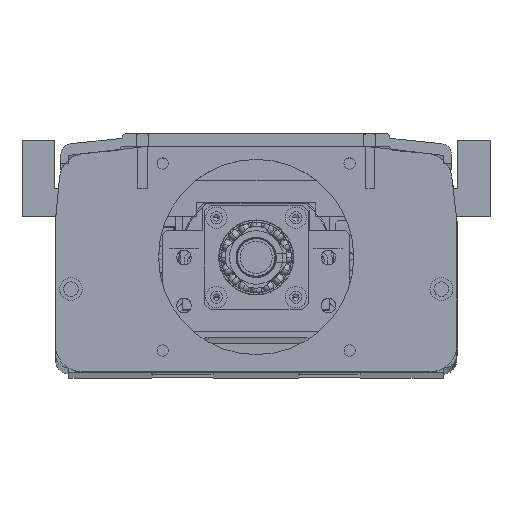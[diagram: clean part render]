
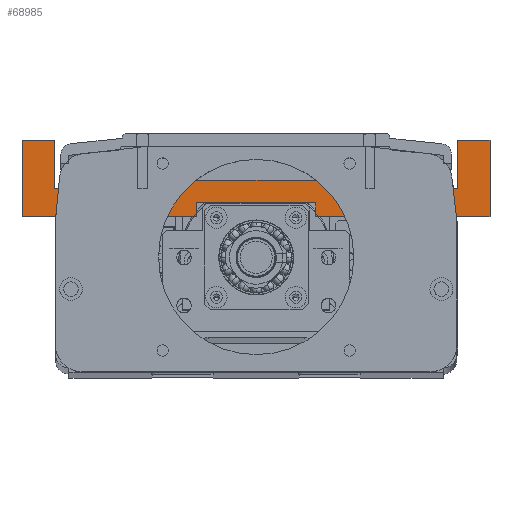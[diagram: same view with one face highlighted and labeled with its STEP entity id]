
A CAD part, top view. The second image highlights one B-rep face of the part: STEP entity #68985.
In plain terms, the highlighted planar face has unit normal (0, 0, 1).
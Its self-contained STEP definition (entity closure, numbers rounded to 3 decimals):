
#1216 = VERTEX_POINT ( 'NONE', #41091 ) ;
#2642 = LINE ( 'NONE', #27536, #94603 ) ;
#3817 = CARTESIAN_POINT ( 'NONE',  ( -57.291, -63.676, 150. ) ) ;
#5464 = EDGE_CURVE ( 'NONE', #109808, #25490, #94193, .T. ) ;
#7262 = LINE ( 'NONE', #73052, #54591 ) ;
#7263 = LINE ( 'NONE', #74970, #72686 ) ;
#7541 = CARTESIAN_POINT ( 'NONE',  ( 7.959, -58.676, 150. ) ) ;
#8365 = DIRECTION ( 'NONE',  ( 1., 0., 0. ) ) ;
#8527 = DIRECTION ( 'NONE',  ( 0., 1., 0. ) ) ;
#8745 = ORIENTED_EDGE ( 'NONE', *, *, #96802, .T. ) ;
#8772 = ORIENTED_EDGE ( 'NONE', *, *, #48153, .T. ) ;
#9501 = LINE ( 'NONE', #3817, #30376 ) ;
#9670 = LINE ( 'NONE', #82681, #54190 ) ;
#10875 = VERTEX_POINT ( 'NONE', #36841 ) ;
#11561 = ORIENTED_EDGE ( 'NONE', *, *, #73954, .T. ) ;
#11903 = CARTESIAN_POINT ( 'NONE',  ( 105.709, -35.176, 150. ) ) ;
#12623 = VECTOR ( 'NONE', #78487, 1000. ) ;
#13149 = EDGE_CURVE ( 'NONE', #10875, #80147, #7262, .T. ) ;
#13307 = EDGE_CURVE ( 'NONE', #112967, #39846, #96427, .T. ) ;
#14479 = CARTESIAN_POINT ( 'NONE',  ( -57.291, -63.676, 150. ) ) ;
#15247 = EDGE_CURVE ( 'NONE', #25490, #30246, #40532, .T. ) ;
#15415 = LINE ( 'NONE', #42660, #12623 ) ;
#15971 = VERTEX_POINT ( 'NONE', #65046 ) ;
#16486 = VECTOR ( 'NONE', #23133, 1000. ) ;
#16895 = VECTOR ( 'NONE', #69777, 1000. ) ;
#19296 = LINE ( 'NONE', #41366, #16486 ) ;
#19774 = DIRECTION ( 'NONE',  ( 0., 1., 0. ) ) ;
#22706 = ORIENTED_EDGE ( 'NONE', *, *, #13149, .T. ) ;
#23133 = DIRECTION ( 'NONE',  ( -1., 0., 0. ) ) ;
#25490 = VERTEX_POINT ( 'NONE', #66525 ) ;
#27536 = CARTESIAN_POINT ( 'NONE',  ( -57.291, -53.176, 150. ) ) ;
#29381 = DIRECTION ( 'NONE',  ( -1., 0., 0. ) ) ;
#30246 = VERTEX_POINT ( 'NONE', #47165 ) ;
#30376 = VECTOR ( 'NONE', #57101, 1000. ) ;
#30775 = DIRECTION ( 'NONE',  ( -1., 0., 0. ) ) ;
#31109 = ORIENTED_EDGE ( 'NONE', *, *, #35619, .T. ) ;
#32369 = CARTESIAN_POINT ( 'NONE',  ( -45.291, -35.176, 150. ) ) ;
#32890 = CARTESIAN_POINT ( 'NONE',  ( -57.291, -35.176, 150. ) ) ;
#35082 = EDGE_LOOP ( 'NONE', ( #63030, #56043, #113958, #112848, #22706, #8745, #64890, #109190, #108150, #113353, #41576, #31109, #62125, #103446, #11561, #8772 ) ) ;
#35619 = EDGE_CURVE ( 'NONE', #76441, #15971, #2642, .T. ) ;
#36841 = CARTESIAN_POINT ( 'NONE',  ( 117.709, -63.676, 150. ) ) ;
#37387 = LINE ( 'NONE', #68137, #81942 ) ;
#38407 = DIRECTION ( 'NONE',  ( 0., -1., 0. ) ) ;
#38923 = EDGE_CURVE ( 'NONE', #69159, #112207, #67518, .T. ) ;
#39846 = VERTEX_POINT ( 'NONE', #58783 ) ;
#40532 = LINE ( 'NONE', #7541, #16895 ) ;
#40918 = DIRECTION ( 'NONE',  ( 0., -1., 0. ) ) ;
#40978 = VECTOR ( 'NONE', #107242, 1000. ) ;
#41091 = CARTESIAN_POINT ( 'NONE',  ( -57.291, -63.676, 150. ) ) ;
#41366 = CARTESIAN_POINT ( 'NONE',  ( 105.709, -35.176, 150. ) ) ;
#41576 = ORIENTED_EDGE ( 'NONE', *, *, #47362, .T. ) ;
#42412 = CARTESIAN_POINT ( 'NONE',  ( 97.209, -50.176, 150. ) ) ;
#42660 = CARTESIAN_POINT ( 'NONE',  ( 97.209, -63.676, 150. ) ) ;
#42896 = LINE ( 'NONE', #94668, #111232 ) ;
#43564 = CARTESIAN_POINT ( 'NONE',  ( 97.209, -53.176, 150. ) ) ;
#46763 = VECTOR ( 'NONE', #8527, 1000. ) ;
#47165 = CARTESIAN_POINT ( 'NONE',  ( 7.959, -58.676, 150. ) ) ;
#47362 = EDGE_CURVE ( 'NONE', #112207, #76441, #7263, .T. ) ;
#48153 = EDGE_CURVE ( 'NONE', #1216, #106067, #100564, .T. ) ;
#50221 = PLANE ( 'NONE',  #73034 ) ;
#50356 = VECTOR ( 'NONE', #8365, 1000. ) ;
#53830 = CARTESIAN_POINT ( 'NONE',  ( -57.291, -35.176, 150. ) ) ;
#54190 = VECTOR ( 'NONE', #29381, 1000. ) ;
#54591 = VECTOR ( 'NONE', #19774, 1000. ) ;
#55187 = EDGE_CURVE ( 'NONE', #30246, #106067, #42896, .T. ) ;
#56043 = ORIENTED_EDGE ( 'NONE', *, *, #15247, .F. ) ;
#57101 = DIRECTION ( 'NONE',  ( 1., 0., 0. ) ) ;
#57373 = CARTESIAN_POINT ( 'NONE',  ( -36.791, -53.176, 150. ) ) ;
#58783 = CARTESIAN_POINT ( 'NONE',  ( 105.709, -53.176, 150. ) ) ;
#59148 = DIRECTION ( 'NONE',  ( 1., 0., 0. ) ) ;
#61651 = CARTESIAN_POINT ( 'NONE',  ( -57.291, -63.676, 150. ) ) ;
#61966 = CARTESIAN_POINT ( 'NONE',  ( 52.459, -63.676, 150. ) ) ;
#62125 = ORIENTED_EDGE ( 'NONE', *, *, #103711, .T. ) ;
#63030 = ORIENTED_EDGE ( 'NONE', *, *, #55187, .F. ) ;
#64890 = ORIENTED_EDGE ( 'NONE', *, *, #13307, .T. ) ;
#65046 = CARTESIAN_POINT ( 'NONE',  ( -45.291, -53.176, 150. ) ) ;
#65101 = EDGE_CURVE ( 'NONE', #78160, #69159, #15415, .T. ) ;
#65988 = CARTESIAN_POINT ( 'NONE',  ( -45.291, -35.176, 150. ) ) ;
#66525 = CARTESIAN_POINT ( 'NONE',  ( 52.459, -58.676, 150. ) ) ;
#67518 = LINE ( 'NONE', #84102, #112203 ) ;
#68137 = CARTESIAN_POINT ( 'NONE',  ( -57.291, -35.176, 150. ) ) ;
#68985 = ADVANCED_FACE ( 'NONE', ( #69412 ), #50221, .T. ) ;
#69159 = VERTEX_POINT ( 'NONE', #42412 ) ;
#69412 = FACE_OUTER_BOUND ( 'NONE', #35082, .T. ) ;
#69777 = DIRECTION ( 'NONE',  ( -1., 0., 0. ) ) ;
#70183 = EDGE_CURVE ( 'NONE', #109808, #10875, #9501, .T. ) ;
#70749 = CARTESIAN_POINT ( 'NONE',  ( 52.459, -58.676, 150. ) ) ;
#71849 = VECTOR ( 'NONE', #85729, 1000. ) ;
#72299 = VERTEX_POINT ( 'NONE', #32890 ) ;
#72686 = VECTOR ( 'NONE', #83949, 1000. ) ;
#73034 = AXIS2_PLACEMENT_3D ( 'NONE', #14479, #112605, #59148 ) ;
#73052 = CARTESIAN_POINT ( 'NONE',  ( 117.709, -35.176, 150. ) ) ;
#73954 = EDGE_CURVE ( 'NONE', #72299, #1216, #37387, .T. ) ;
#74970 = CARTESIAN_POINT ( 'NONE',  ( -36.791, -63.676, 150. ) ) ;
#75367 = CARTESIAN_POINT ( 'NONE',  ( 7.959, -63.676, 150. ) ) ;
#75508 = VECTOR ( 'NONE', #38407, 1000. ) ;
#76441 = VERTEX_POINT ( 'NONE', #57373 ) ;
#76558 = CARTESIAN_POINT ( 'NONE',  ( -36.791, -50.176, 150. ) ) ;
#78160 = VERTEX_POINT ( 'NONE', #43564 ) ;
#78487 = DIRECTION ( 'NONE',  ( 0., 1., 0. ) ) ;
#80147 = VERTEX_POINT ( 'NONE', #91667 ) ;
#81942 = VECTOR ( 'NONE', #40918, 1000. ) ;
#82681 = CARTESIAN_POINT ( 'NONE',  ( -57.291, -53.176, 150. ) ) ;
#83949 = DIRECTION ( 'NONE',  ( 0., -1., 0. ) ) ;
#84102 = CARTESIAN_POINT ( 'NONE',  ( -45.291, -50.176, 150. ) ) ;
#85729 = DIRECTION ( 'NONE',  ( 0., 1., 0. ) ) ;
#85998 = VERTEX_POINT ( 'NONE', #65988 ) ;
#90017 = LINE ( 'NONE', #32369, #71849 ) ;
#91667 = CARTESIAN_POINT ( 'NONE',  ( 117.709, -35.176, 150. ) ) ;
#94193 = LINE ( 'NONE', #70749, #46763 ) ;
#94603 = VECTOR ( 'NONE', #107782, 1000. ) ;
#94668 = CARTESIAN_POINT ( 'NONE',  ( 7.959, -58.676, 150. ) ) ;
#94851 = EDGE_CURVE ( 'NONE', #39846, #78160, #9670, .T. ) ;
#95044 = DIRECTION ( 'NONE',  ( 0., -1., 0. ) ) ;
#96427 = LINE ( 'NONE', #109729, #75508 ) ;
#96802 = EDGE_CURVE ( 'NONE', #80147, #112967, #19296, .T. ) ;
#100564 = LINE ( 'NONE', #61651, #50356 ) ;
#103446 = ORIENTED_EDGE ( 'NONE', *, *, #114799, .T. ) ;
#103711 = EDGE_CURVE ( 'NONE', #15971, #85998, #90017, .T. ) ;
#106067 = VERTEX_POINT ( 'NONE', #75367 ) ;
#107242 = DIRECTION ( 'NONE',  ( -1., 0., 0. ) ) ;
#107782 = DIRECTION ( 'NONE',  ( -1., 0., 0. ) ) ;
#108150 = ORIENTED_EDGE ( 'NONE', *, *, #65101, .T. ) ;
#109190 = ORIENTED_EDGE ( 'NONE', *, *, #94851, .T. ) ;
#109313 = LINE ( 'NONE', #53830, #40978 ) ;
#109729 = CARTESIAN_POINT ( 'NONE',  ( 105.709, -35.176, 150. ) ) ;
#109808 = VERTEX_POINT ( 'NONE', #61966 ) ;
#111232 = VECTOR ( 'NONE', #95044, 1000. ) ;
#112203 = VECTOR ( 'NONE', #30775, 1000. ) ;
#112207 = VERTEX_POINT ( 'NONE', #76558 ) ;
#112605 = DIRECTION ( 'NONE',  ( 0., 0., 1. ) ) ;
#112848 = ORIENTED_EDGE ( 'NONE', *, *, #70183, .T. ) ;
#112967 = VERTEX_POINT ( 'NONE', #11903 ) ;
#113353 = ORIENTED_EDGE ( 'NONE', *, *, #38923, .T. ) ;
#113958 = ORIENTED_EDGE ( 'NONE', *, *, #5464, .F. ) ;
#114799 = EDGE_CURVE ( 'NONE', #85998, #72299, #109313, .T. ) ;
